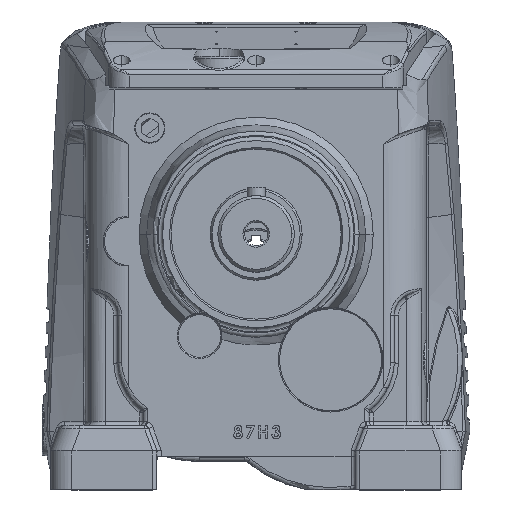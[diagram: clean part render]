
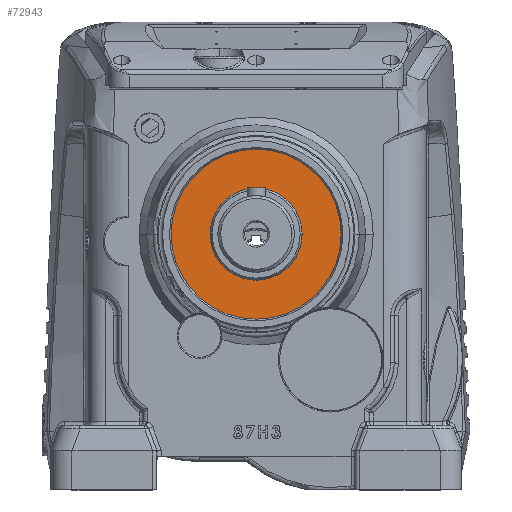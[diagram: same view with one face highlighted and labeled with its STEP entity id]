
A CAD part, top view. The second image highlights one B-rep face of the part: STEP entity #72943.
In plain terms, the highlighted planar face has unit normal (0, 0, 1).
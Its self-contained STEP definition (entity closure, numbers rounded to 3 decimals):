
#37830 = FACE_BOUND ( 'NONE', #60726, .T. ) ;
#37831 = FACE_OUTER_BOUND ( 'NONE', #60727, .T. ) ;
#44689 = CARTESIAN_POINT ( 'NONE',  ( 0., 160., 48.5 ) ) ;
#44690 = DIRECTION ( 'NONE',  ( 0., 0., 1. ) ) ;
#44691 = DIRECTION ( 'NONE',  ( 1., 0., 0. ) ) ;
#44694 = CARTESIAN_POINT ( 'NONE',  ( 0., 160., 48.5 ) ) ;
#44695 = DIRECTION ( 'NONE',  ( 0., 0., 1. ) ) ;
#44696 = DIRECTION ( 'NONE',  ( 1., 0., 0. ) ) ;
#44697 = CARTESIAN_POINT ( 'NONE',  ( 0., 160., 48.5 ) ) ;
#44698 = DIRECTION ( 'NONE',  ( 0., 0., 1. ) ) ;
#44699 = DIRECTION ( 'NONE',  ( 1., 0., 0. ) ) ;
#44700 = CARTESIAN_POINT ( 'NONE',  ( 0., 160., 48.5 ) ) ;
#44701 = DIRECTION ( 'NONE',  ( 0., 0., 1. ) ) ;
#44702 = DIRECTION ( 'NONE',  ( 1., 0., 0. ) ) ;
#45564 = CIRCLE ( 'NONE', #45579, 60. ) ;
#45579 = AXIS2_PLACEMENT_3D ( 'NONE', #44689, #44690, #44691 ) ;
#45582 = CIRCLE ( 'NONE', #45597, 60. ) ;
#45584 = CIRCLE ( 'NONE', #45589, 32.5 ) ;
#45589 = AXIS2_PLACEMENT_3D ( 'NONE', #44694, #44695, #44696 ) ;
#45591 = CIRCLE ( 'NONE', #45593, 32.5 ) ;
#45593 = AXIS2_PLACEMENT_3D ( 'NONE', #44697, #44698, #44699 ) ;
#45597 = AXIS2_PLACEMENT_3D ( 'NONE', #44700, #44701, #44702 ) ;
#45838 = AXIS2_PLACEMENT_3D ( 'NONE', #47999, #48001, #48003 ) ;
#47459 = CARTESIAN_POINT ( 'NONE',  ( -60., 160., 48.5 ) ) ;
#47460 = CARTESIAN_POINT ( 'NONE',  ( 60., 160., 48.5 ) ) ;
#47461 = CARTESIAN_POINT ( 'NONE',  ( 32.5, 160., 48.5 ) ) ;
#47462 = CARTESIAN_POINT ( 'NONE',  ( -32.5, 160., 48.5 ) ) ;
#47997 = PLANE ( 'NONE',  #45838 ) ;
#47999 = CARTESIAN_POINT ( 'NONE',  ( 0., 220., 48.5 ) ) ;
#48001 = DIRECTION ( 'NONE',  ( 0., 0., -1. ) ) ;
#48003 = DIRECTION ( 'NONE',  ( -1., 0., 0. ) ) ;
#60726 = EDGE_LOOP ( 'NONE', ( #73381, #73383 ) ) ;
#60727 = EDGE_LOOP ( 'NONE', ( #73385, #73384 ) ) ;
#62238 = VERTEX_POINT ( 'NONE', #47459 ) ;
#62239 = VERTEX_POINT ( 'NONE', #47460 ) ;
#62240 = VERTEX_POINT ( 'NONE', #47461 ) ;
#62241 = VERTEX_POINT ( 'NONE', #47462 ) ;
#72833 = EDGE_CURVE ( 'NONE', #62239, #62238, #45564, .T. ) ;
#72835 = EDGE_CURVE ( 'NONE', #62241, #62240, #45584, .T. ) ;
#72836 = EDGE_CURVE ( 'NONE', #62240, #62241, #45591, .T. ) ;
#72837 = EDGE_CURVE ( 'NONE', #62238, #62239, #45582, .T. ) ;
#72943 = ADVANCED_FACE ( 'NONE', ( #37830, #37831 ), #47997, .F. ) ;
#73381 = ORIENTED_EDGE ( 'NONE', *, *, #72836, .F. ) ;
#73383 = ORIENTED_EDGE ( 'NONE', *, *, #72835, .F. ) ;
#73384 = ORIENTED_EDGE ( 'NONE', *, *, #72837, .T. ) ;
#73385 = ORIENTED_EDGE ( 'NONE', *, *, #72833, .T. ) ;
